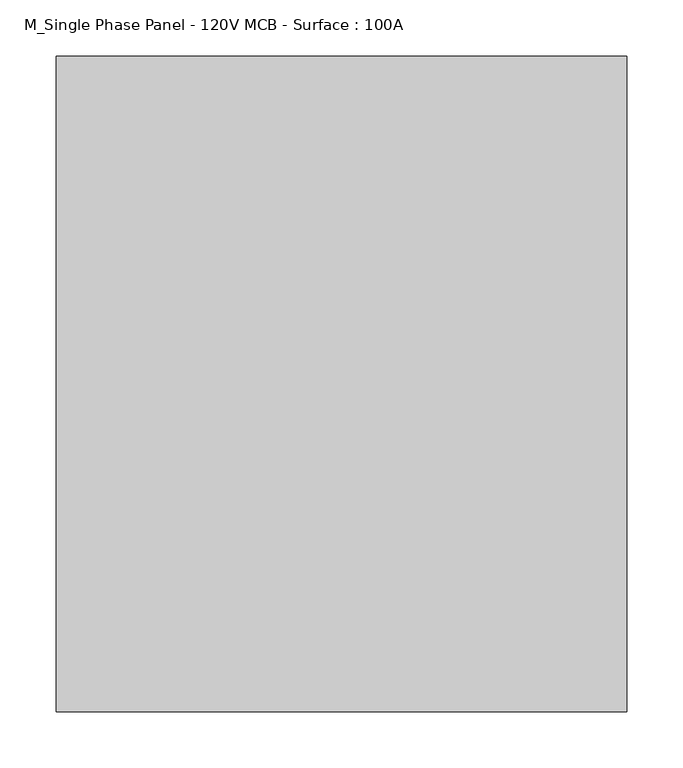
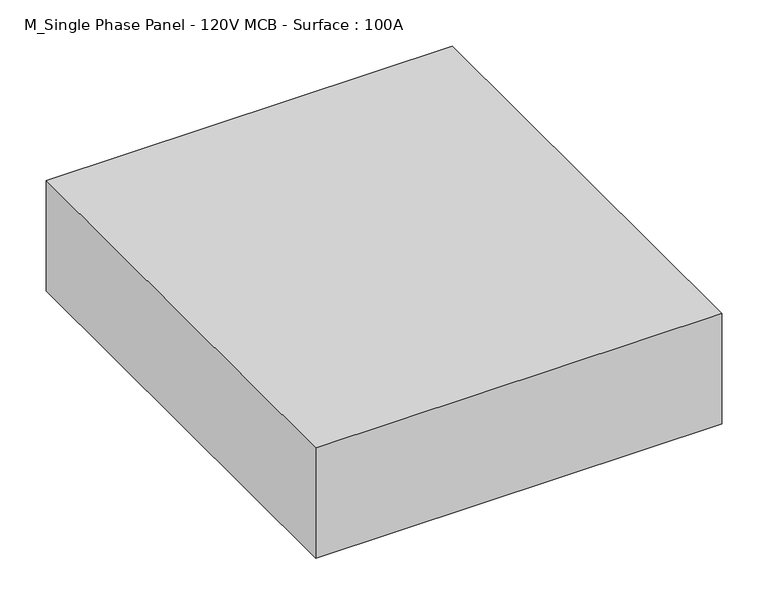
"""IFC4 building model written with IfcOpenShell, lengths in millimetres: proxy geometry, M_Single Phase Panel - 120V MCB - Surface : 100A."""

import ifcopenshell
import ifcopenshell.guid

model = None  # the IFC model being written
_history = None  # IfcOwnerHistory: only IFC2X3 demands one
_inside = {}  # id of a spatial element -> (the spatial element, [elements in it])
_under = {}  # id of a project, library or spatial element -> (it, [spatial elements below it])
_declared = {}  # id of a project -> (the project, [libraries it declares])
_typed = {}  # id of a type object -> (the type object, [elements of that type])
_made_of = {}  # id of a material, layer set ... -> (it, [elements and type objects made of it])


def new_model(schema):
    """Start an empty IFC model of exactly this schema.

    Asked for "IFC4X3", IfcOpenShell would pick the latest addendum, in which some entities
    have other attributes; the version numbers below select the first issue.
    IFC2X3 requires an IfcOwnerHistory on every rooted entity: one is made here for all.
    """
    global model, _history
    if schema == "IFC4X3":
        model = ifcopenshell.file(schema_version=(4, 3, 0, 0))
    else:
        model = ifcopenshell.file(schema=schema)
    _inside.clear()
    _under.clear()
    _declared.clear()
    _typed.clear()
    _made_of.clear()
    _history = None
    if model.schema == "IFC2X3":
        org = make("IfcOrganization", Name="unknown")
        user = make(
            "IfcPersonAndOrganization",
            ThePerson=make("IfcPerson", FamilyName="unknown"),
            TheOrganization=org,
        )
        app = make(
            "IfcApplication",
            ApplicationDeveloper=org,
            Version="unknown",
            ApplicationFullName="unknown",
            ApplicationIdentifier="unknown",
        )
        _history = make(
            "IfcOwnerHistory",
            OwningUser=user,
            OwningApplication=app,
            ChangeAction="ADDED",
            CreationDate=0,
        )
    return model


def make(cls, **values):
    """One entity of the class cls with the attributes given. An attribute that is None is left unset."""
    return model.create_entity(
        cls, **{name: value for name, value in values.items() if value is not None}
    )


def rooted(cls, **values):
    """An entity with a GlobalId (a new one), such as an element, a storey or a relation."""
    return make(cls, GlobalId=ifcopenshell.guid.new(), OwnerHistory=_history, **values)


def si_unit(unit_type, name, prefix=None):
    """IfcSIUnit, for example si_unit("LENGTHUNIT", "METRE", prefix="MILLI")."""
    return make("IfcSIUnit", UnitType=unit_type, Prefix=prefix, Name=name)


def assignment(units):
    """IfcUnitAssignment: the units of a project."""
    return None if units is None else make("IfcUnitAssignment", Units=units)


def point(xyz):
    """IfcCartesianPoint."""
    return None if xyz is None else make("IfcCartesianPoint", Coordinates=xyz)


def direction(xyz):
    """IfcDirection."""
    return None if xyz is None else make("IfcDirection", DirectionRatios=xyz)


def frame(location, z_axis=None, x_axis=None):
    """IfcAxis2Placement3D, a coordinate frame: its origin and axes. An axis left out is left unset."""
    return make(
        "IfcAxis2Placement3D",
        Location=point(location),
        Axis=direction(z_axis),
        RefDirection=direction(x_axis),
    )


def origin():
    """The frame at (0, 0, 0) with its axes left unset."""
    return frame((0.0, 0.0, 0.0))


def origin_with_axes():
    """The frame at (0, 0, 0) with the z axis (0, 0, 1) and the x axis (1, 0, 0) written out."""
    return frame((0.0, 0.0, 0.0), z_axis=(0.0, 0.0, 1.0), x_axis=(1.0, 0.0, 0.0))


def place(relative_to, where):
    """IfcLocalPlacement: puts the frame where relative to a parent placement (None: the world)."""
    return make(
        "IfcLocalPlacement", PlacementRelTo=relative_to, RelativePlacement=where
    )


def context(
    kind, dimensions, precision=None, world=None, true_north=None, identifier=None
):
    """IfcGeometricRepresentationContext, for example the 3D "Model" context."""
    return make(
        "IfcGeometricRepresentationContext",
        ContextIdentifier=identifier,
        ContextType=kind,
        CoordinateSpaceDimension=dimensions,
        Precision=precision,
        WorldCoordinateSystem=world,
        TrueNorth=true_north,
    )


def project(units=None, contexts=None):
    """IfcProject with its units and contexts."""
    return rooted(
        "IfcProject",
        Name="project",
        RepresentationContexts=contexts,
        UnitsInContext=assignment(units),
    )


def spatial(cls, under=None, at=None, **own):
    """A site, building, storey or space (cls), placed at a placement, below another one or the project."""
    s = rooted(cls, ObjectPlacement=at, **own)
    if under is not None:
        _under.setdefault(under.id(), (under, []))[1].append(s)
    return s


def polyline(points):
    """IfcPolyline through the points."""
    return make("IfcPolyline", Points=[point(p) for p in points])


def outline(outer, holes=None, kind="AREA"):
    """IfcArbitraryClosedProfileDef: a profile drawn as a closed curve; with holes, ...WithVoids."""
    if holes is None:
        return make("IfcArbitraryClosedProfileDef", ProfileType=kind, OuterCurve=outer)
    return make(
        "IfcArbitraryProfileDefWithVoids",
        ProfileType=kind,
        OuterCurve=outer,
        InnerCurves=holes,
    )


def extrude(swept, where, along, depth):
    """IfcExtrudedAreaSolid: the profile swept, set in the frame where, extruded along a direction by depth."""
    return make(
        "IfcExtrudedAreaSolid",
        SweptArea=swept,
        Position=where,
        ExtrudedDirection=direction(along),
        Depth=depth,
    )


def shape(context_of_items, identifier, shape_type, items):
    """IfcShapeRepresentation: the items that make up one representation, for example the "Body"."""
    return make(
        "IfcShapeRepresentation",
        ContextOfItems=context_of_items,
        RepresentationIdentifier=identifier,
        RepresentationType=shape_type,
        Items=items,
    )


def source(mapping_origin, context_of_items, identifier, shape_type, items):
    """IfcRepresentationMap: a shape defined once, which mapped items show again and again."""
    return make(
        "IfcRepresentationMap",
        MappingOrigin=mapping_origin,
        MappedRepresentation=shape(context_of_items, identifier, shape_type, items),
    )


def transform(
    local_origin,
    x_axis=None,
    y_axis=None,
    z_axis=None,
    scale=None,
    scale2=None,
    scale3=None,
    uniform=True,
):
    """IfcCartesianTransformationOperator3D, or its non-uniform kind. x_axis, y_axis, z_axis: its Axis1, 2, 3."""
    if uniform:
        return make(
            "IfcCartesianTransformationOperator3D",
            Axis1=direction(x_axis),
            Axis2=direction(y_axis),
            LocalOrigin=point(local_origin),
            Scale=scale,
            Axis3=direction(z_axis),
        )
    return make(
        "IfcCartesianTransformationOperator3DnonUniform",
        Axis1=direction(x_axis),
        Axis2=direction(y_axis),
        LocalOrigin=point(local_origin),
        Scale=scale,
        Axis3=direction(z_axis),
        Scale2=scale2,
        Scale3=scale3,
    )


def mapped(mapping_source, mapping_target):
    """IfcMappedItem: shows the shape of a source again, moved by a transform."""
    return make(
        "IfcMappedItem", MappingSource=mapping_source, MappingTarget=mapping_target
    )


def made_of(thing, what):
    """Note that an element or type object is made of a material, layer set ...; save() writes the relation."""
    if what is not None:
        _made_of.setdefault(what.id(), (what, []))[1].append(thing)
    return thing


def element(
    cls,
    number,
    at=None,
    inside=None,
    cuts=None,
    type_object=None,
    material=None,
    context=None,
    identifier="Body",
    shape_type=None,
    held_by="IfcProductDefinitionShape",
    body=None,
    shapes=None,
    **own,
):
    """One element of the class cls, such as IfcWall. Its Tag is "e" and its number.

    at: its placement. inside: the storey or other place that contains it. cuts: it is an
    opening in that element (IfcRelVoidsElement). A single representation is given by context,
    identifier, shape_type and body (its items); several are given by shapes. held_by: the class
    of the entity that holds the representations. save() writes the other relations.
    """
    e = rooted(cls, Tag="e%d" % number, ObjectPlacement=at, **own)
    if body is not None:
        shapes = [shape(context, identifier, shape_type, body)]
    if shapes is not None:
        e.Representation = make(held_by, Representations=shapes)
    if inside is not None:
        _inside.setdefault(inside.id(), (inside, []))[1].append(e)
    if cuts is not None:
        rooted(
            "IfcRelVoidsElement", RelatingBuildingElement=cuts, RelatedOpeningElement=e
        )
    if type_object is not None:
        _typed.setdefault(type_object.id(), (type_object, []))[1].append(e)
    return made_of(e, material)


def aggregate(whole, parts):
    """IfcRelAggregates: a whole, such as a stair, and the parts it consists of."""
    return rooted("IfcRelAggregates", RelatingObject=whole, RelatedObjects=parts)


def save(model, path):
    """Write the relations noted so far, then the file.

    IfcRelAggregates (storeys below a building ...), IfcRelContainedInSpatialStructure (elements
    in a storey), IfcRelDefinesByType, IfcRelAssociatesMaterial and IfcRelDeclares: one each for
    every whole, place, type object, material and project.
    """
    for whole, parts in _under.values():
        aggregate(whole, parts)
    for where, things in _inside.values():
        rooted(
            "IfcRelContainedInSpatialStructure",
            RelatedElements=things,
            RelatingStructure=where,
        )
    for kind, things in _typed.values():
        rooted("IfcRelDefinesByType", RelatedObjects=things, RelatingType=kind)
    for what, things in _made_of.values():
        rooted("IfcRelAssociatesMaterial", RelatedObjects=things, RelatingMaterial=what)
    for by, libraries in _declared.values():
        rooted("IfcRelDeclares", RelatingContext=by, RelatedDefinitions=libraries)
    model.write(path)


def m_single_phase_panel_120v_mcb_surface_100a_d3a5421d(model_context):
    return source(origin(), model_context, "Body", "SweptSolid", [
        extrude(outline(polyline([(254.0, 0.0), (254.0, -584.0), (-254.0, -584.0), (-254.0, 0.0), (254.0, 0.0)])), origin_with_axes(), (0.0, 0.0, 1.0), 146.0),
    ])


if __name__ == "__main__":
    model = new_model("IFC4")
    model_context = context("Model", 3, world=origin())
    ifc_project = project(units=[si_unit("LENGTHUNIT", "METRE", prefix="MILLI")], contexts=[model_context])
    site = spatial("IfcSite", under=ifc_project)
    building = spatial("IfcBuilding", under=site)
    placement = place(None, origin())
    m_single_phase_panel_120v_mcb_surface_100a_shape = m_single_phase_panel_120v_mcb_surface_100a_d3a5421d(model_context)
    element("IfcBuildingElementProxy", 1, Name="M_Single Phase Panel - 120V MCB - Surface : 100A", ObjectType="M_Single Phase Panel - 120V MCB - Surface : 100A", at=placement, inside=building, context=model_context, shape_type="MappedRepresentation", body=[
        mapped(m_single_phase_panel_120v_mcb_surface_100a_shape, transform((0.0, 0.0, 0.0), x_axis=(1.0, 0.0, 0.0), y_axis=(0.0, 1.0, 0.0), z_axis=(0.0, 0.0, 1.0))),
    ])
    save(model, "model.ifc")
